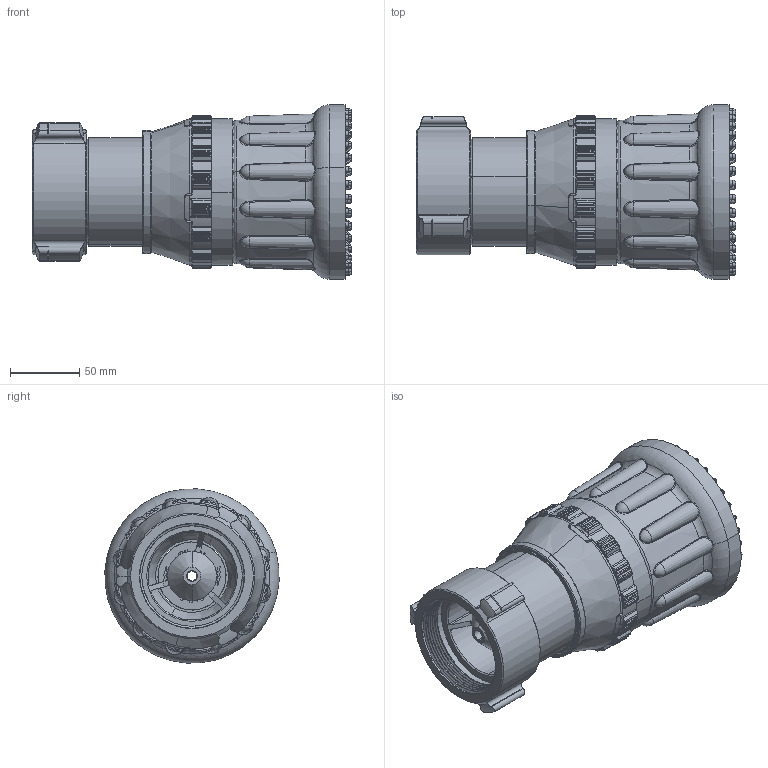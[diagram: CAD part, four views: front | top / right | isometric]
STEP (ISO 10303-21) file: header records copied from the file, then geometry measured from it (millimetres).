
FILE_DESCRIPTION (( 'STEP AP203' ), '1' );
FILE_NAME ('MD28A.step', '2014-05-13T19:41:32', ( 'user' ), ( '' ), 'SwSTEP 2.0', 'SolidWorks 2012', '' );
FILE_SCHEMA (( 'CONFIG_CONTROL_DESIGN' ));
Products named in the file (1): MD28A
Bounding box: 230.45 x 125.72 x 125.72 mm (x, y, z)
Surface area: 185071.4 mm2 (no closed solid volume)
Topology: 0 solids, 23 shells, 1129 faces, 3779 edges, 2552 vertices
Faces by surface type: cylinder 559, plane 192, sphere 142, torus 107, bspline 73, cone 56
Entity records: 51766 total; most frequent: CARTESIAN_POINT 21797, ORIENTED_EDGE 6428, DIRECTION 5664, EDGE_CURVE 3635, VERTEX_POINT 2484, AXIS2_PLACEMENT_3D 2109, LINE 1446, VECTOR 1446
